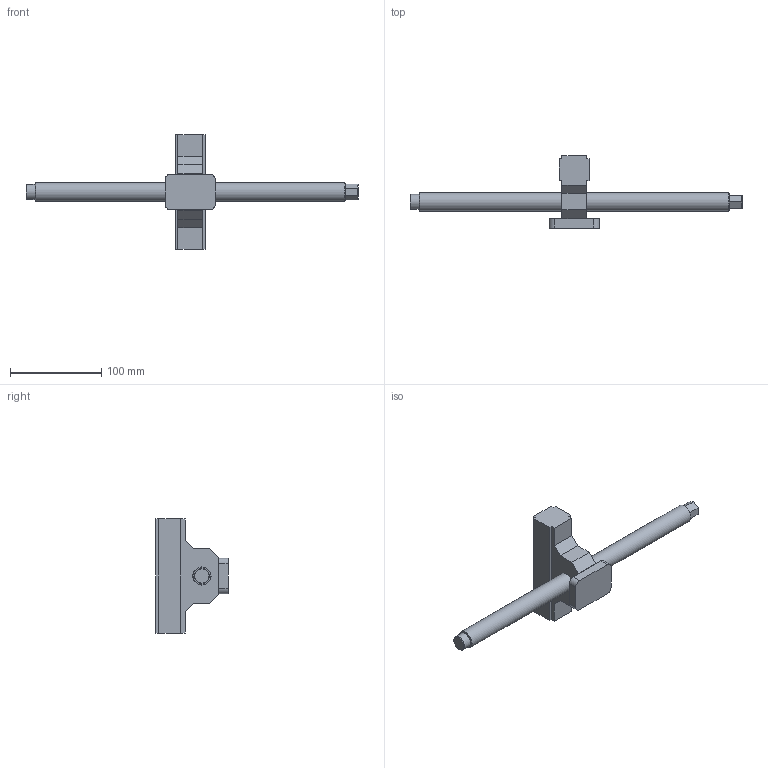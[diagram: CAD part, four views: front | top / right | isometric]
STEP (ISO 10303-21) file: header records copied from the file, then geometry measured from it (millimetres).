
FILE_DESCRIPTION (( 'STEP AP214' ), '1' );
FILE_NAME ('48355-TG2527.STEP', '2020-03-24T15:02:04', ( '' ), ( '' ), 'SwSTEP 2.0', 'SolidWorks 2019', '' );
FILE_SCHEMA (( 'AUTOMOTIVE_DESIGN' ));
Length unit declared in the file: millimetre
Products named in the file (1): 48355-TG2527
Bounding box: 364 x 79 x 125 mm (x, y, z)
Volume: 309432.5 mm3; surface area: 49045.6 mm2
Topology: 1 solids, 1 shells, 69 faces, 169 edges, 107 vertices
Faces by surface type: plane 59, cylinder 7, cone 3
Full cylindrical faces by diameter (mm): 16.5 x1, 20 x2
Entity records: 2454 total; most frequent: CARTESIAN_POINT 336, ORIENTED_EDGE 322, DIRECTION 318, EDGE_CURVE 161, LINE 144, VECTOR 144, VERTEX_POINT 105, AXIS2_PLACEMENT_3D 87
